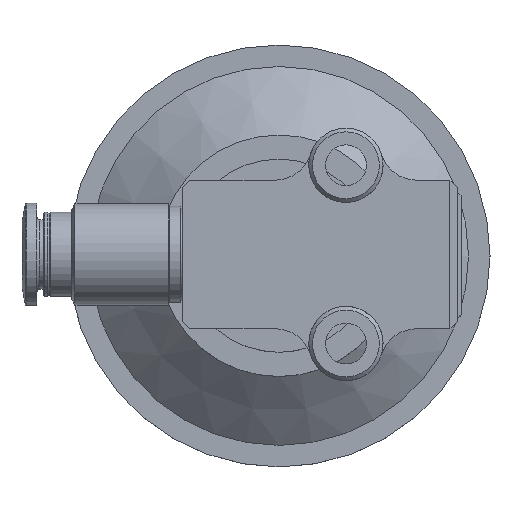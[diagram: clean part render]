
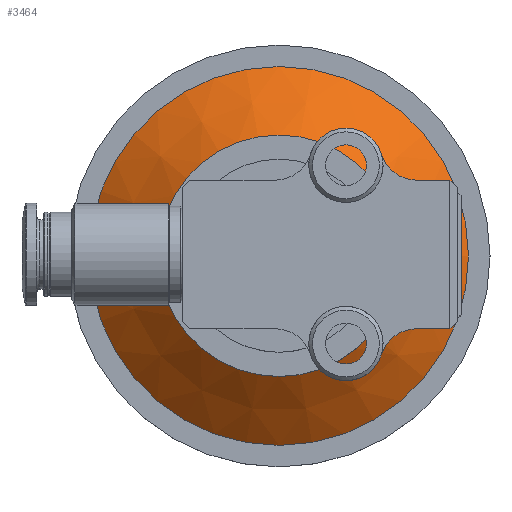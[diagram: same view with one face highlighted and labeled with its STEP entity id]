
A CAD part, top view. The second image highlights one B-rep face of the part: STEP entity #3464.
In plain terms, the highlighted conical face has half-angle 50.991 degrees and reference radius 20.833 mm.
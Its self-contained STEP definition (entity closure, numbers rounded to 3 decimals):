
#51=CONICAL_SURFACE('',#3759,20.833,0.89);
#534=CIRCLE('',#3758,25.498);
#535=CIRCLE('',#3760,16.25);
#1184=ORIENTED_EDGE('',*,*,#1496,.T.);
#1185=ORIENTED_EDGE('',*,*,#1497,.T.);
#1496=EDGE_CURVE('',#1710,#1710,#534,.T.);
#1497=EDGE_CURVE('',#1711,#1711,#535,.T.);
#1710=VERTEX_POINT('',#8486);
#1711=VERTEX_POINT('',#8489);
#1957=EDGE_LOOP('',(#1184));
#1958=EDGE_LOOP('',(#1185));
#2184=FACE_BOUND('',#1957,.T.);
#2185=FACE_BOUND('',#1958,.T.);
#3464=ADVANCED_FACE('',(#2184,#2185),#51,.T.);
#3758=AXIS2_PLACEMENT_3D('',#8485,#4474,#4475);
#3759=AXIS2_PLACEMENT_3D('',#8487,#4476,#4477);
#3760=AXIS2_PLACEMENT_3D('',#8488,#4478,#4479);
#4474=DIRECTION('',(0.,0.,1.));
#4475=DIRECTION('',(1.,0.,0.));
#4476=DIRECTION('',(0.,0.,-1.));
#4477=DIRECTION('',(1.,0.,0.));
#4478=DIRECTION('',(0.,0.,-1.));
#4479=DIRECTION('',(-1.,0.,0.));
#8485=CARTESIAN_POINT('',(0.,0.,-30.983));
#8486=CARTESIAN_POINT('',(25.498,0.,-30.983));
#8487=CARTESIAN_POINT('',(0.,0.,-27.204));
#8488=CARTESIAN_POINT('',(0.,0.,-23.491));
#8489=CARTESIAN_POINT('',(-16.25,0.,-23.491));
